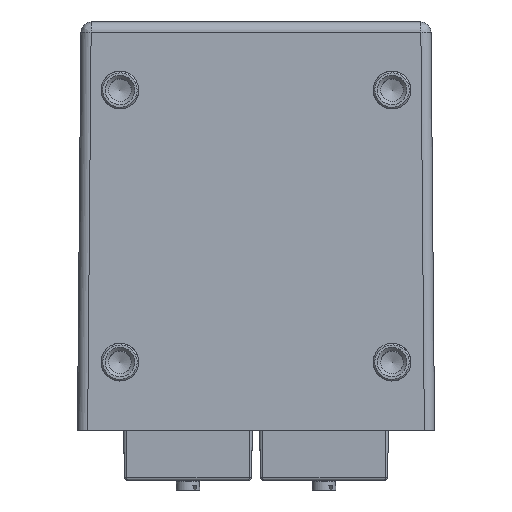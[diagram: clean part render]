
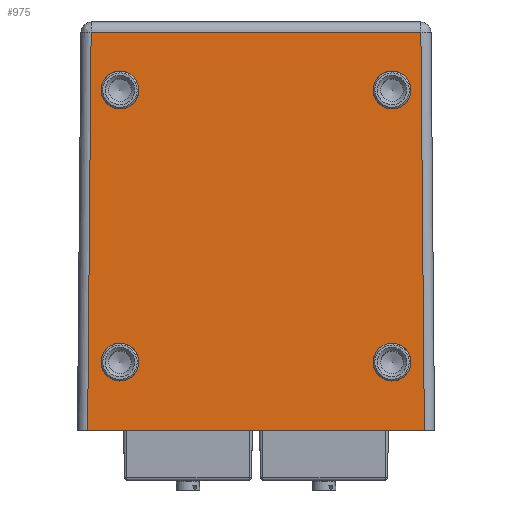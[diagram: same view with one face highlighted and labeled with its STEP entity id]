
A CAD part, left-side view. The second image highlights one B-rep face of the part: STEP entity #975.
In plain terms, the highlighted planar face has unit normal (-1, 0, 0.009).
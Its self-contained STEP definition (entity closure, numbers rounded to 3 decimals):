
#975=ADVANCED_FACE('',(#2988,#2990,#2992,#2994,#2996),#2998,.T.);
#2988=FACE_BOUND('',#2989,.T.);
#2989=EDGE_LOOP('',(#5976,#5977,#5978,#5979));
#2990=FACE_BOUND('',#2991,.T.);
#2991=EDGE_LOOP('',(#5980));
#2992=FACE_BOUND('',#2993,.T.);
#2993=EDGE_LOOP('',(#5981));
#2994=FACE_BOUND('',#2995,.T.);
#2995=EDGE_LOOP('',(#5982));
#2996=FACE_BOUND('',#2997,.T.);
#2997=EDGE_LOOP('',(#5983));
#2998=PLANE('',#2999);
#2999=AXIS2_PLACEMENT_3D('',#3000,#3001,#3002);
#3000=CARTESIAN_POINT('',(-52.5,47.,0.));
#3001=DIRECTION('',(-1.,0.,0.009));
#3002=DIRECTION('',(0.,-1.,0.));
#5976=ORIENTED_EDGE('',*,*,#6852,.F.);
#5977=ORIENTED_EDGE('',*,*,#6853,.F.);
#5978=ORIENTED_EDGE('',*,*,#6854,.T.);
#5979=ORIENTED_EDGE('',*,*,#6855,.T.);
#5980=ORIENTED_EDGE('',*,*,#6856,.F.);
#5981=ORIENTED_EDGE('',*,*,#6857,.F.);
#5982=ORIENTED_EDGE('',*,*,#6858,.F.);
#5983=ORIENTED_EDGE('',*,*,#6859,.F.);
#6852=EDGE_CURVE('',#7298,#7299,#7300,.T.);
#6853=EDGE_CURVE('',#7301,#7298,#7302,.T.);
#6854=EDGE_CURVE('',#7301,#7303,#7304,.T.);
#6855=EDGE_CURVE('',#7303,#7299,#7305,.T.);
#6856=EDGE_CURVE('',#7306,#7306,#7307,.T.);
#6857=EDGE_CURVE('',#7308,#7308,#7309,.T.);
#6858=EDGE_CURVE('',#7310,#7310,#7311,.T.);
#6859=EDGE_CURVE('',#7312,#7312,#7313,.T.);
#7298=VERTEX_POINT('',#8048);
#7299=VERTEX_POINT('',#8049);
#7300=LINE('',#8050,#8051);
#7301=VERTEX_POINT('',#8053);
#7302=LINE('',#8054,#8055);
#7303=VERTEX_POINT('',#8057);
#7304=LINE('',#8058,#8059);
#7305=LINE('',#8061,#8062);
#7306=VERTEX_POINT('',#8064);
#7307=CIRCLE('',#8065,5.55);
#7308=VERTEX_POINT('',#8069);
#7309=CIRCLE('',#8070,5.55);
#7310=VERTEX_POINT('',#8074);
#7311=CIRCLE('',#8075,5.55);
#7312=VERTEX_POINT('',#8079);
#7313=CIRCLE('',#8080,5.55);
#8048=CARTESIAN_POINT('',(-51.479,45.979,117.026));
#8049=CARTESIAN_POINT('',(-51.479,-50.979,117.026));
#8050=CARTESIAN_POINT('',(-51.479,45.979,117.026));
#8051=VECTOR('',#8052,1.);
#8052=DIRECTION('',(0.,-1.,0.));
#8053=CARTESIAN_POINT('',(-52.5,47.,0.));
#8054=CARTESIAN_POINT('',(-52.5,47.,0.));
#8055=VECTOR('',#8056,1.);
#8056=DIRECTION('',(0.009,-0.009,1.));
#8057=CARTESIAN_POINT('',(-52.5,-52.,0.));
#8058=CARTESIAN_POINT('',(-52.5,47.,0.));
#8059=VECTOR('',#8060,1.);
#8060=DIRECTION('',(0.,-1.,0.));
#8061=CARTESIAN_POINT('',(-52.5,-52.,0.));
#8062=VECTOR('',#8063,1.);
#8063=DIRECTION('',(0.009,0.009,1.));
#8064=CARTESIAN_POINT('',(-52.374,37.5,14.449));
#8065=AXIS2_PLACEMENT_3D('',#8066,#8067,#8068);
#8066=CARTESIAN_POINT('',(-52.325,37.5,19.999));
#8067=DIRECTION('',(-1.,0.,0.009));
#8068=DIRECTION('',(0.009,0.,1.));
#8069=CARTESIAN_POINT('',(-52.374,-42.5,14.449));
#8070=AXIS2_PLACEMENT_3D('',#8071,#8072,#8073);
#8071=CARTESIAN_POINT('',(-52.325,-42.5,19.999));
#8072=DIRECTION('',(-1.,0.,0.009));
#8073=DIRECTION('',(0.009,0.,1.));
#8074=CARTESIAN_POINT('',(-51.676,37.5,94.446));
#8075=AXIS2_PLACEMENT_3D('',#8076,#8077,#8078);
#8076=CARTESIAN_POINT('',(-51.627,37.5,99.996));
#8077=DIRECTION('',(-1.,0.,0.009));
#8078=DIRECTION('',(0.009,0.,1.));
#8079=CARTESIAN_POINT('',(-51.676,-42.5,94.446));
#8080=AXIS2_PLACEMENT_3D('',#8081,#8082,#8083);
#8081=CARTESIAN_POINT('',(-51.627,-42.5,99.996));
#8082=DIRECTION('',(-1.,0.,0.009));
#8083=DIRECTION('',(0.009,0.,1.));
